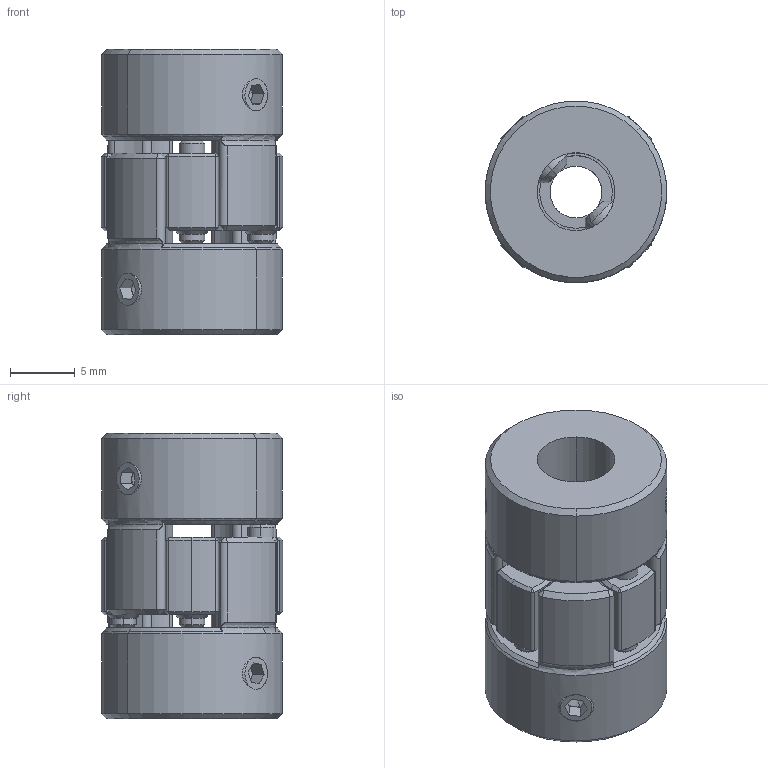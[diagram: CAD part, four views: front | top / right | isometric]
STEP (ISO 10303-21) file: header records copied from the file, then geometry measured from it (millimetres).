
FILE_DESCRIPTION (( 'STEP AP203' ), '1' );
FILE_NAME ('LF-D-D14L22-4-6.STEP', '2021-10-26T05:39:26', ( '' ), ( '' ), 'SwSTEP 2.0', 'SolidWorks 2018', '' );
FILE_SCHEMA (( 'CONFIG_CONTROL_DESIGN' ));
Length unit declared in the file: millimetre
Products named in the file (1): LF-D-D14L22-4-6
Bounding box: 14 x 14 x 22 mm (x, y, z)
Volume: 2686.2 mm3; surface area: 2157.5 mm2
Topology: 1 solids, 1 shells, 353 faces, 887 edges, 512 vertices
Faces by surface type: cone 164, cylinder 115, plane 66, torus 8
Entity records: 10853 total; most frequent: CARTESIAN_POINT 2238, DIRECTION 1939, ORIENTED_EDGE 1726, EDGE_CURVE 863, AXIS2_PLACEMENT_3D 780, VERTEX_POINT 512, CIRCLE 426, EDGE_LOOP 383
